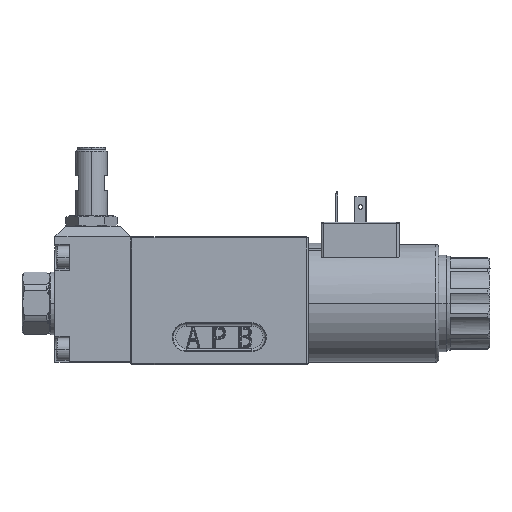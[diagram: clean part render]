
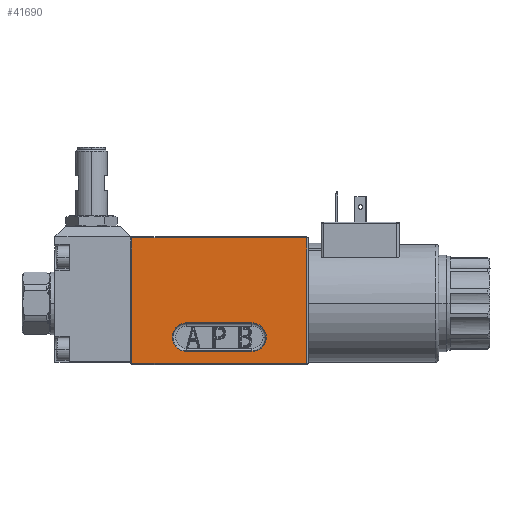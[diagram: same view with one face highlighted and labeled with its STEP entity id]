
A CAD part, top view. The second image highlights one B-rep face of the part: STEP entity #41690.
In plain terms, the highlighted planar face has unit normal (0, 0, 1).
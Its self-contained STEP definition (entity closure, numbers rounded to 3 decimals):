
#1448 = AXIS2_PLACEMENT_3D ( 'NONE', #73461, #21675, #21959 ) ;
#1546 = DIRECTION ( 'NONE',  ( 0., -1., 0. ) ) ;
#1615 = CIRCLE ( 'NONE', #65443, 5.471 ) ;
#4388 = AXIS2_PLACEMENT_3D ( 'NONE', #64812, #19811, #19542 ) ;
#4925 = LINE ( 'NONE', #22298, #53875 ) ;
#5932 = VERTEX_POINT ( 'NONE', #21647 ) ;
#9240 = CARTESIAN_POINT ( 'NONE',  ( 12.5, -13.5, 23. ) ) ;
#10328 = VERTEX_POINT ( 'NONE', #54912 ) ;
#10774 = ORIENTED_EDGE ( 'NONE', *, *, #11012, .T. ) ;
#11012 = EDGE_CURVE ( 'NONE', #71406, #44861, #4925, .T. ) ;
#11663 = DIRECTION ( 'NONE',  ( 1., 0., 0. ) ) ;
#15391 = VERTEX_POINT ( 'NONE', #80664 ) ;
#15619 = DIRECTION ( 'NONE',  ( 1., 0., 0. ) ) ;
#15889 = FACE_OUTER_BOUND ( 'NONE', #17345, .T. ) ;
#16778 = EDGE_CURVE ( 'NONE', #10328, #71406, #35384, .T. ) ;
#17345 = EDGE_LOOP ( 'NONE', ( #10774, #36108, #28804, #82069 ) ) ;
#19153 = DIRECTION ( 'NONE',  ( -1., 0., 0. ) ) ;
#19542 = DIRECTION ( 'NONE',  ( 1., 0., 0. ) ) ;
#19811 = DIRECTION ( 'NONE',  ( 0., 0., 1. ) ) ;
#20218 = CIRCLE ( 'NONE', #1448, 5.471 ) ;
#20398 = LINE ( 'NONE', #42897, #70388 ) ;
#21647 = CARTESIAN_POINT ( 'NONE',  ( 17.971, -13.5, 23. ) ) ;
#21675 = DIRECTION ( 'NONE',  ( 0., 0., -1. ) ) ;
#21912 = VERTEX_POINT ( 'NONE', #72353 ) ;
#21959 = DIRECTION ( 'NONE',  ( 1., 0., 0. ) ) ;
#22298 = CARTESIAN_POINT ( 'NONE',  ( -35., -23.5, 23. ) ) ;
#23900 = CARTESIAN_POINT ( 'NONE',  ( -12.5, -8.029, 23. ) ) ;
#25264 = LINE ( 'NONE', #69117, #28192 ) ;
#26044 = EDGE_CURVE ( 'NONE', #5932, #21912, #20218, .T. ) ;
#26430 = CARTESIAN_POINT ( 'NONE',  ( -35., 24.5, 23. ) ) ;
#28192 = VECTOR ( 'NONE', #36324, 1000. ) ;
#28804 = ORIENTED_EDGE ( 'NONE', *, *, #70199, .T. ) ;
#31510 = CARTESIAN_POINT ( 'NONE',  ( -12.5, -13.5, 23. ) ) ;
#32780 = VERTEX_POINT ( 'NONE', #74925 ) ;
#34031 = VERTEX_POINT ( 'NONE', #34320 ) ;
#34320 = CARTESIAN_POINT ( 'NONE',  ( 12.5, -8.029, 23. ) ) ;
#34861 = DIRECTION ( 'NONE',  ( 0., 0., -1. ) ) ;
#35384 = LINE ( 'NONE', #64975, #73529 ) ;
#35658 = ORIENTED_EDGE ( 'NONE', *, *, #64672, .T. ) ;
#36108 = ORIENTED_EDGE ( 'NONE', *, *, #43757, .T. ) ;
#36324 = DIRECTION ( 'NONE',  ( 0., 1., 0. ) ) ;
#40046 = CARTESIAN_POINT ( 'NONE',  ( 12.5, -18.971, 23. ) ) ;
#40632 = ORIENTED_EDGE ( 'NONE', *, *, #26044, .T. ) ;
#41690 = ADVANCED_FACE ( 'NONE', ( #75983, #15889 ), #71266, .T. ) ;
#41691 = ORIENTED_EDGE ( 'NONE', *, *, #45503, .T. ) ;
#42897 = CARTESIAN_POINT ( 'NONE',  ( 12.5, -8.029, 23. ) ) ;
#43757 = EDGE_CURVE ( 'NONE', #44861, #15391, #25264, .T. ) ;
#44861 = VERTEX_POINT ( 'NONE', #49331 ) ;
#45503 = EDGE_CURVE ( 'NONE', #21912, #32780, #72904, .T. ) ;
#48497 = LINE ( 'NONE', #26430, #68492 ) ;
#48958 = DIRECTION ( 'NONE',  ( -1., 0., 0. ) ) ;
#49282 = EDGE_CURVE ( 'NONE', #34031, #5932, #64277, .T. ) ;
#49331 = CARTESIAN_POINT ( 'NONE',  ( 33.5, -23.5, 23. ) ) ;
#52113 = ORIENTED_EDGE ( 'NONE', *, *, #59959, .T. ) ;
#53875 = VECTOR ( 'NONE', #11663, 1000. ) ;
#54084 = EDGE_LOOP ( 'NONE', ( #76632, #40632, #41691, #35658, #52113 ) ) ;
#54912 = CARTESIAN_POINT ( 'NONE',  ( -33.5, 24.5, 23. ) ) ;
#55823 = DIRECTION ( 'NONE',  ( 1., 0., 0. ) ) ;
#59959 = EDGE_CURVE ( 'NONE', #79475, #34031, #20398, .T. ) ;
#63954 = DIRECTION ( 'NONE',  ( 1., 0., 0. ) ) ;
#64277 = CIRCLE ( 'NONE', #75879, 5.471 ) ;
#64672 = EDGE_CURVE ( 'NONE', #32780, #79475, #1615, .T. ) ;
#64812 = CARTESIAN_POINT ( 'NONE',  ( -35., -24., 23. ) ) ;
#64975 = CARTESIAN_POINT ( 'NONE',  ( -33.5, -24., 23. ) ) ;
#65443 = AXIS2_PLACEMENT_3D ( 'NONE', #31510, #82858, #63954 ) ;
#68492 = VECTOR ( 'NONE', #19153, 1000. ) ;
#68854 = VECTOR ( 'NONE', #48958, 1000. ) ;
#69117 = CARTESIAN_POINT ( 'NONE',  ( 33.5, -24., 23. ) ) ;
#70199 = EDGE_CURVE ( 'NONE', #15391, #10328, #48497, .T. ) ;
#70388 = VECTOR ( 'NONE', #55823, 1000. ) ;
#71266 = PLANE ( 'NONE',  #4388 ) ;
#71406 = VERTEX_POINT ( 'NONE', #74389 ) ;
#72353 = CARTESIAN_POINT ( 'NONE',  ( 12.5, -18.971, 23. ) ) ;
#72904 = LINE ( 'NONE', #40046, #68854 ) ;
#73461 = CARTESIAN_POINT ( 'NONE',  ( 12.5, -13.5, 23. ) ) ;
#73529 = VECTOR ( 'NONE', #1546, 1000. ) ;
#74389 = CARTESIAN_POINT ( 'NONE',  ( -33.5, -23.5, 23. ) ) ;
#74925 = CARTESIAN_POINT ( 'NONE',  ( -12.5, -18.971, 23. ) ) ;
#75879 = AXIS2_PLACEMENT_3D ( 'NONE', #9240, #34861, #15619 ) ;
#75983 = FACE_BOUND ( 'NONE', #54084, .T. ) ;
#76632 = ORIENTED_EDGE ( 'NONE', *, *, #49282, .T. ) ;
#79475 = VERTEX_POINT ( 'NONE', #23900 ) ;
#80664 = CARTESIAN_POINT ( 'NONE',  ( 33.5, 24.5, 23. ) ) ;
#82069 = ORIENTED_EDGE ( 'NONE', *, *, #16778, .T. ) ;
#82858 = DIRECTION ( 'NONE',  ( 0., 0., -1. ) ) ;
